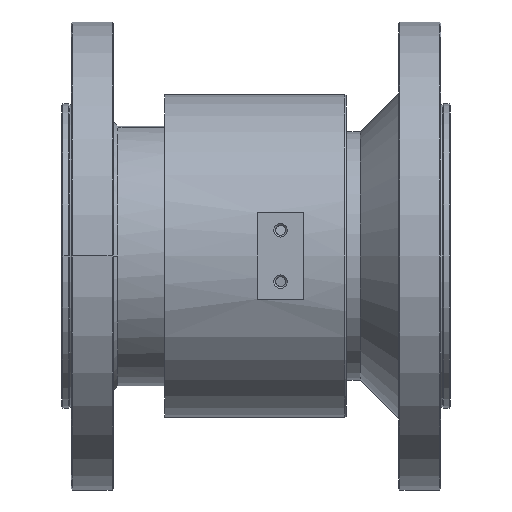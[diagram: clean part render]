
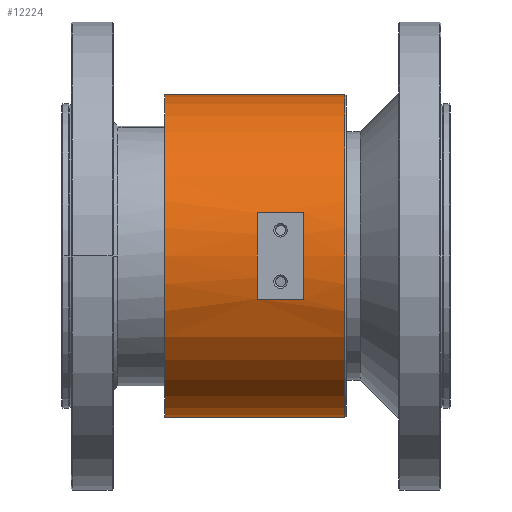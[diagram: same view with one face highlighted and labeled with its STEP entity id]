
A CAD part, front view. The second image highlights one B-rep face of the part: STEP entity #12224.
In plain terms, the highlighted cylindrical face has radius 69 mm (diameter 138 mm), a partial arc.
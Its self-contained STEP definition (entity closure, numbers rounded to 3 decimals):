
#65 = LINE ( 'NONE', #13276, #27571 ) ;
#904 = AXIS2_PLACEMENT_3D ( 'NONE', #4243, #21956, #8744 ) ;
#1268 = EDGE_CURVE ( 'NONE', #15383, #28534, #15406, .T. ) ;
#1525 = ORIENTED_EDGE ( 'NONE', *, *, #9585, .F. ) ;
#1987 = ORIENTED_EDGE ( 'NONE', *, *, #6301, .T. ) ;
#2774 = CARTESIAN_POINT ( 'NONE',  ( 32., 0., 0. ) ) ;
#3056 = VERTEX_POINT ( 'NONE', #13569 ) ;
#3217 = CIRCLE ( 'NONE', #904, 69. ) ;
#3535 = VERTEX_POINT ( 'NONE', #5372 ) ;
#3693 = VERTEX_POINT ( 'NONE', #24593 ) ;
#3772 = ORIENTED_EDGE ( 'NONE', *, *, #10046, .T. ) ;
#4243 = CARTESIAN_POINT ( 'NONE',  ( -5.5, 0., 0. ) ) ;
#4528 = CARTESIAN_POINT ( 'NONE',  ( -45., 0., 69. ) ) ;
#4764 = CARTESIAN_POINT ( 'NONE',  ( 32.5, 0., 0. ) ) ;
#5129 = VERTEX_POINT ( 'NONE', #18722 ) ;
#5372 = CARTESIAN_POINT ( 'NONE',  ( -5.5, -66.5, 18.405 ) ) ;
#5728 = ORIENTED_EDGE ( 'NONE', *, *, #6140, .T. ) ;
#5829 = CARTESIAN_POINT ( 'NONE',  ( 32.5, 0., 69. ) ) ;
#6140 = EDGE_CURVE ( 'NONE', #5129, #3535, #3217, .T. ) ;
#6301 = EDGE_CURVE ( 'NONE', #3056, #13691, #21319, .T. ) ;
#6743 = DIRECTION ( 'NONE',  ( -1., 0., 0. ) ) ;
#7277 = VERTEX_POINT ( 'NONE', #4528 ) ;
#7359 = EDGE_CURVE ( 'NONE', #7277, #3693, #23111, .T. ) ;
#7791 = VECTOR ( 'NONE', #20531, 1000. ) ;
#7997 = EDGE_LOOP ( 'NONE', ( #1525, #23525, #15612, #1987 ) ) ;
#8123 = CARTESIAN_POINT ( 'NONE',  ( 14.5, -66.5, -18.405 ) ) ;
#8213 = DIRECTION ( 'NONE',  ( 1., 0., 0. ) ) ;
#8608 = DIRECTION ( 'NONE',  ( 0., 0., -1. ) ) ;
#8744 = DIRECTION ( 'NONE',  ( 0., -1., 0. ) ) ;
#8858 = ORIENTED_EDGE ( 'NONE', *, *, #1268, .T. ) ;
#9466 = DIRECTION ( 'NONE',  ( -1., 0., 0. ) ) ;
#9585 = EDGE_CURVE ( 'NONE', #7277, #13691, #21358, .T. ) ;
#9794 = ORIENTED_EDGE ( 'NONE', *, *, #22177, .T. ) ;
#10046 = EDGE_CURVE ( 'NONE', #3535, #15383, #26159, .T. ) ;
#10597 = CARTESIAN_POINT ( 'NONE',  ( 14.5, -66.5, 18.405 ) ) ;
#10638 = AXIS2_PLACEMENT_3D ( 'NONE', #24081, #21675, #8608 ) ;
#10986 = AXIS2_PLACEMENT_3D ( 'NONE', #4764, #22463, #13650 ) ;
#12224 = ADVANCED_FACE ( 'NONE', ( #22323, #17995 ), #15823, .T. ) ;
#12870 = DIRECTION ( 'NONE',  ( 1., 0., 0. ) ) ;
#13276 = CARTESIAN_POINT ( 'NONE',  ( 27., -66.5, -18.405 ) ) ;
#13569 = CARTESIAN_POINT ( 'NONE',  ( 32., 0., -69. ) ) ;
#13650 = DIRECTION ( 'NONE',  ( 0., 0., -1. ) ) ;
#13691 = VERTEX_POINT ( 'NONE', #24286 ) ;
#14195 = EDGE_CURVE ( 'NONE', #3693, #3056, #16465, .T. ) ;
#15383 = VERTEX_POINT ( 'NONE', #10597 ) ;
#15406 = CIRCLE ( 'NONE', #22308, 69. ) ;
#15612 = ORIENTED_EDGE ( 'NONE', *, *, #14195, .T. ) ;
#15823 = CYLINDRICAL_SURFACE ( 'NONE', #10986, 69. ) ;
#16284 = DIRECTION ( 'NONE',  ( 0., 0., -1. ) ) ;
#16465 = LINE ( 'NONE', #25249, #7791 ) ;
#17148 = DIRECTION ( 'NONE',  ( 1., 0., 0. ) ) ;
#17995 = FACE_BOUND ( 'NONE', #26727, .T. ) ;
#18722 = CARTESIAN_POINT ( 'NONE',  ( -5.5, -66.5, -18.405 ) ) ;
#20531 = DIRECTION ( 'NONE',  ( 1., 0., 0. ) ) ;
#21319 = CIRCLE ( 'NONE', #27275, 69. ) ;
#21358 = LINE ( 'NONE', #5829, #25010 ) ;
#21389 = VECTOR ( 'NONE', #8213, 1000. ) ;
#21675 = DIRECTION ( 'NONE',  ( 1., 0., 0. ) ) ;
#21855 = CARTESIAN_POINT ( 'NONE',  ( 27., -66.5, 18.405 ) ) ;
#21956 = DIRECTION ( 'NONE',  ( -1., 0., 0. ) ) ;
#22177 = EDGE_CURVE ( 'NONE', #28534, #5129, #65, .T. ) ;
#22308 = AXIS2_PLACEMENT_3D ( 'NONE', #26014, #12870, #28331 ) ;
#22323 = FACE_OUTER_BOUND ( 'NONE', #7997, .T. ) ;
#22463 = DIRECTION ( 'NONE',  ( 1., 0., 0. ) ) ;
#23111 = CIRCLE ( 'NONE', #10638, 69. ) ;
#23525 = ORIENTED_EDGE ( 'NONE', *, *, #7359, .T. ) ;
#24081 = CARTESIAN_POINT ( 'NONE',  ( -45., 0., 0. ) ) ;
#24286 = CARTESIAN_POINT ( 'NONE',  ( 32., 0., 69. ) ) ;
#24593 = CARTESIAN_POINT ( 'NONE',  ( -45., 0., -69. ) ) ;
#25010 = VECTOR ( 'NONE', #17148, 1000. ) ;
#25249 = CARTESIAN_POINT ( 'NONE',  ( 32.5, 0., -69. ) ) ;
#26014 = CARTESIAN_POINT ( 'NONE',  ( 14.5, 0., 0. ) ) ;
#26159 = LINE ( 'NONE', #21855, #21389 ) ;
#26727 = EDGE_LOOP ( 'NONE', ( #9794, #5728, #3772, #8858 ) ) ;
#27275 = AXIS2_PLACEMENT_3D ( 'NONE', #2774, #9466, #16284 ) ;
#27571 = VECTOR ( 'NONE', #6743, 1000. ) ;
#28331 = DIRECTION ( 'NONE',  ( 0., 1., 0. ) ) ;
#28534 = VERTEX_POINT ( 'NONE', #8123 ) ;
